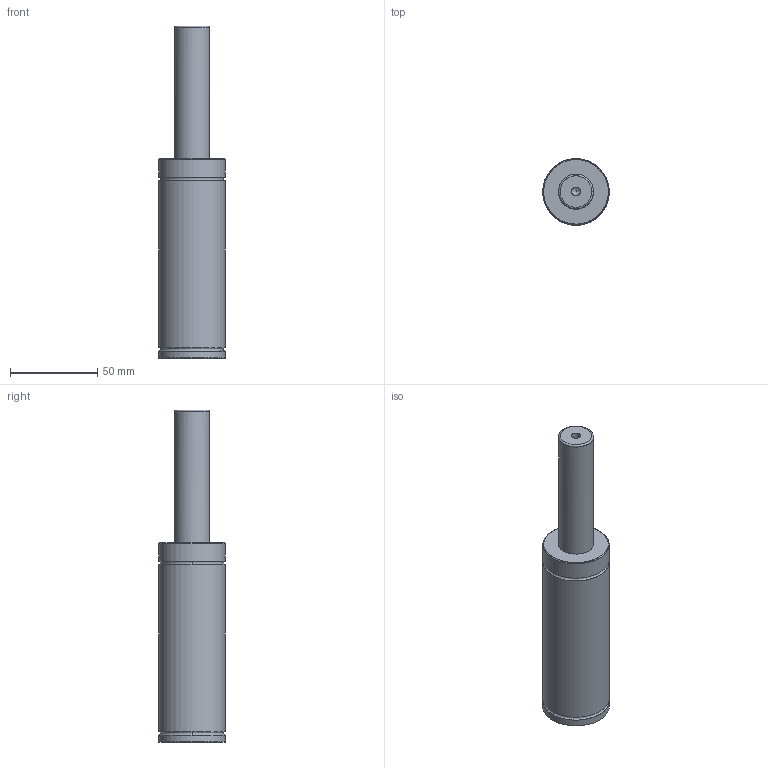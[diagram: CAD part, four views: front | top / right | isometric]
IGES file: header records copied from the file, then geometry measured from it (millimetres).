
Start section: VISI Layer Mapping Iges    VISI  0      LAYER_EMPTY  1      wwww  7      W_PD700  8      S_PD700  10     W_PD1000  11     S_PD1000  13     W_PD2000  14     S_PD2000  16     W_PD3000  17     S_PD3000  19     W_PD4000  20     S_PD4000  22     W_PD7000  23     S_PD7000  28     W_350  29     MS-350  30     MC-350  31     MP-350  32     MB-350  33     MH-350  34     MK-350  35     MPL-350  39     W_500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
Global section: file name: E:\だ錶臢\だ錶臢3D\SYLINDER\PT Series\PT500\PT500\PT500-75.igs; native system: VISI 16.0; preprocessor: 2.0; author: 11; organization: 0; date: 500.; units: mil
Bounding box: 38 x 38 x 190 mm (x, y, z)
Surface area: 21718.5 mm2 (no closed solid volume)
Topology: 0 solids, 0 shells, 19 faces, 221 edges, 196 vertices
Faces by surface type: bspline 19
